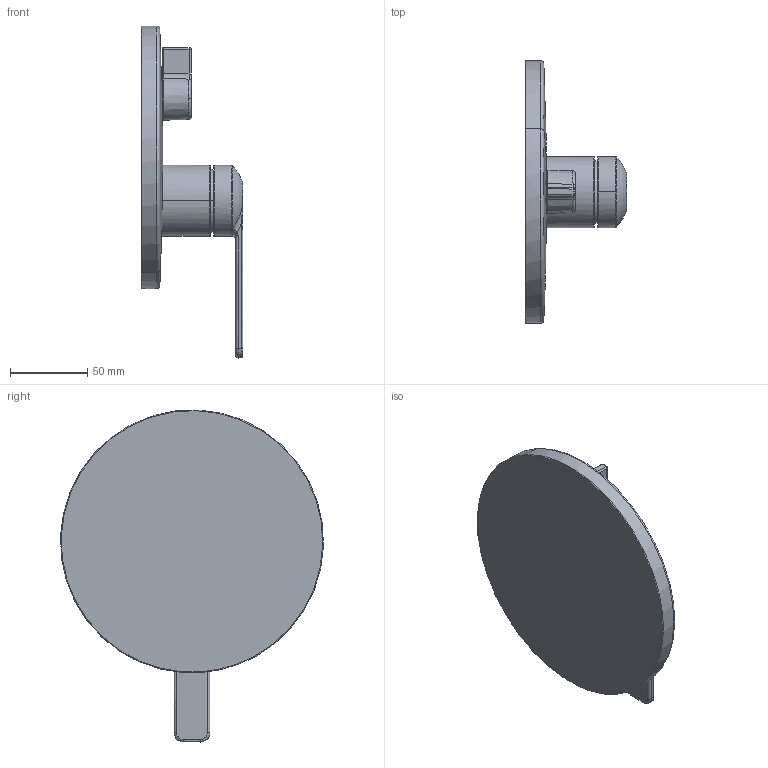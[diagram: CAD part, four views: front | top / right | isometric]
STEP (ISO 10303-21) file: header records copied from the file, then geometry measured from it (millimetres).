
FILE_DESCRIPTION((''),'2;1');
FILE_NAME('20664500_510','2019-03-05T',('TS966'),(''),'CREO PARAMETRIC BY PTC INC, 2016260','CREO PARAMETRIC BY PTC INC, 2016260','');
FILE_SCHEMA(('CONFIG_CONTROL_DESIGN'));
Length unit declared in the file: millimetre
Products named in the file (1): 20664500_510
Bounding box: 65.9 x 169.87 x 214.51 mm (x, y, z)
Volume: 397780.5 mm3; surface area: 66618.6 mm2
Topology: 1 solids, 1 shells, 241 faces, 602 edges, 363 vertices
Faces by surface type: bspline 112, cylinder 45, plane 38, torus 27, cone 13, sphere 6
Entity records: 14520 total; most frequent: CARTESIAN_POINT 9679, ORIENTED_EDGE 1192, DIRECTION 703, EDGE_CURVE 596, VERTEX_POINT 363, B_SPLINE_CURVE_WITH_KNOTS 321, AXIS2_PLACEMENT_3D 299, EDGE_LOOP 251
